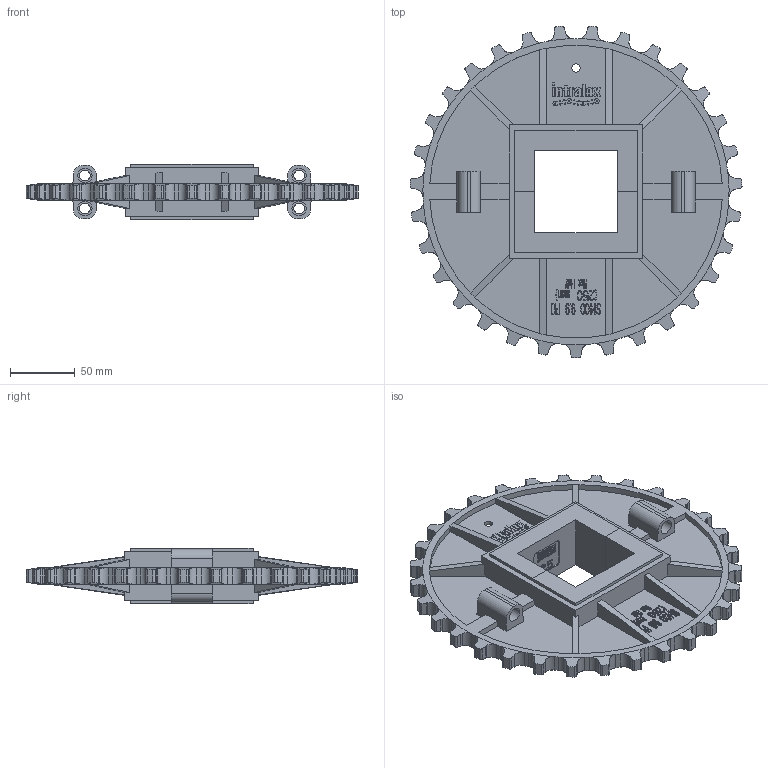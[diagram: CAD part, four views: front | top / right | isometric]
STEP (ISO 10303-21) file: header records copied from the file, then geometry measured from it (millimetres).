
FILE_DESCRIPTION((''),'2;1');
FILE_NAME('S1400_SPLIT_99X25_SQ_ASM','2008-12-12T',('jmumphre'),(''),'PRO/ENGINEER BY PARAMETRIC TECHNOLOGY CORPORATION, 2008150','PRO/ENGINEER BY PARAMETRIC TECHNOLOGY CORPORATION, 2008150','');
FILE_SCHEMA(('CONFIG_CONTROL_DESIGN'));
Products named in the file (3): S1400_SPLIT_99X35_SQ; 2-5IN_SQ_BORE_ADAPTER; S1400_SPLIT_99X25_SQ_ASM
Assembly tree (3 placements, depth 2):
  S1400_SPLIT_99X25_SQ_ASM
    S1400_SPLIT_99X35_SQ
    2-5IN_SQ_BORE_ADAPTER  x2
Bounding box: 255.69 x 255.38 x 42.42 mm (x, y, z)
Volume: 449570.3 mm3; surface area: 204200.7 mm2
Topology: 3 solids, 3 shells, 3307 faces, 9255 edges, 6118 vertices
Faces by surface type: plane 2571, cylinder 658, cone 78
Entity records: 95938 total; most frequent: CARTESIAN_POINT 21286, ORIENTED_EDGE 16272, DIRECTION 14240, EDGE_CURVE 8136, VECTOR 6748, LINE 6748, VERTEX_POINT 5372, AXIS2_PLACEMENT_3D 3746
